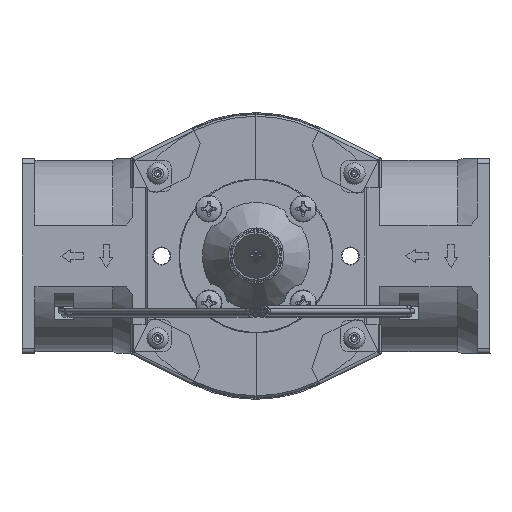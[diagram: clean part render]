
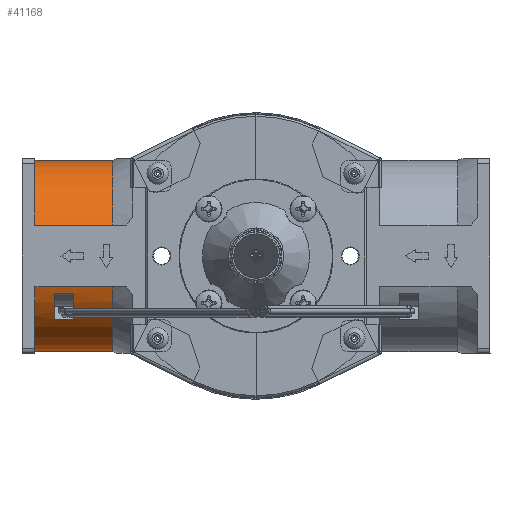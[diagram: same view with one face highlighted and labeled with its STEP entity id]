
A CAD part, front view. The second image highlights one B-rep face of the part: STEP entity #41168.
In plain terms, the highlighted cylindrical face has radius 29.5 mm (diameter 59 mm), a partial arc.
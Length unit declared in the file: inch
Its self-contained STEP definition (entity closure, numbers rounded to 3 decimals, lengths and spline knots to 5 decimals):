
#860 = DIRECTION ( 'NONE',  ( 0., 0., 1. ) ) ;
#1134 = VECTOR ( 'NONE', #3345, 39.37008 ) ;
#1284 = DIRECTION ( 'NONE',  ( 1., 0., 0. ) ) ;
#1369 = EDGE_CURVE ( 'NONE', #4544, #24800, #42989, .T. ) ;
#1387 = CARTESIAN_POINT ( 'NONE',  ( -1.73662, 2.39368, -0.375 ) ) ;
#1697 = EDGE_CURVE ( 'NONE', #25884, #6047, #22092, .T. ) ;
#2099 = EDGE_CURVE ( 'NONE', #23366, #4544, #13488, .T. ) ;
#2719 = ORIENTED_EDGE ( 'NONE', *, *, #25549, .T. ) ;
#3262 = CIRCLE ( 'NONE', #37993, 1.16142 ) ;
#3345 = DIRECTION ( 'NONE',  ( -1., 0., 0. ) ) ;
#4016 = CARTESIAN_POINT ( 'NONE',  ( -1.73662, 2.39368, 0.375 ) ) ;
#4535 = LINE ( 'NONE', #41325, #11813 ) ;
#4544 = VERTEX_POINT ( 'NONE', #4016 ) ;
#4614 = FACE_BOUND ( 'NONE', #17410, .T. ) ;
#6047 = VERTEX_POINT ( 'NONE', #25444 ) ;
#6603 = CARTESIAN_POINT ( 'NONE',  ( -3.26237, 2.39368, -0.375 ) ) ;
#7175 = CARTESIAN_POINT ( 'NONE',  ( -3.26237, 2.39368, 0.375 ) ) ;
#8119 = AXIS2_PLACEMENT_3D ( 'NONE', #17838, #31528, #31099 ) ;
#8758 = DIRECTION ( 'NONE',  ( 0., 0., 1. ) ) ;
#9654 = DIRECTION ( 'NONE',  ( 1., 0., 0. ) ) ;
#9690 = ORIENTED_EDGE ( 'NONE', *, *, #13111, .T. ) ;
#9885 = LINE ( 'NONE', #6603, #1134 ) ;
#10274 = EDGE_CURVE ( 'NONE', #6047, #41126, #3262, .T. ) ;
#10311 = CARTESIAN_POINT ( 'NONE',  ( -2.209, 2.42377, -0.45374 ) ) ;
#11670 = ORIENTED_EDGE ( 'NONE', *, *, #20875, .F. ) ;
#11813 = VECTOR ( 'NONE', #1284, 39.37008 ) ;
#13111 = EDGE_CURVE ( 'NONE', #38023, #25884, #36581, .T. ) ;
#13170 = CARTESIAN_POINT ( 'NONE',  ( -1.73662, 3.49289, 0. ) ) ;
#13200 = EDGE_CURVE ( 'NONE', #24800, #23488, #9885, .T. ) ;
#13488 = LINE ( 'NONE', #7175, #27775 ) ;
#13561 = CARTESIAN_POINT ( 'NONE',  ( -2.209, 3.49289, 0. ) ) ;
#13919 = DIRECTION ( 'NONE',  ( 1., 0., 0. ) ) ;
#16390 = DIRECTION ( 'NONE',  ( -1., 0., 0. ) ) ;
#17410 = EDGE_LOOP ( 'NONE', ( #41230, #33341, #2719, #9690 ) ) ;
#17838 = CARTESIAN_POINT ( 'NONE',  ( -2.68144, 3.49289, 0. ) ) ;
#17937 = DIRECTION ( 'NONE',  ( -1., 0., 0. ) ) ;
#18275 = DIRECTION ( 'NONE',  ( 0., 0., 1. ) ) ;
#19079 = ORIENTED_EDGE ( 'NONE', *, *, #13200, .T. ) ;
#19427 = ORIENTED_EDGE ( 'NONE', *, *, #2099, .T. ) ;
#20791 = CARTESIAN_POINT ( 'NONE',  ( -2.68144, 2.39368, 0.375 ) ) ;
#20875 = EDGE_CURVE ( 'NONE', #23366, #23488, #22086, .T. ) ;
#21325 = CARTESIAN_POINT ( 'NONE',  ( -2.44522, 3.49289, 0. ) ) ;
#22086 = CIRCLE ( 'NONE', #8119, 1.16142 ) ;
#22092 = LINE ( 'NONE', #25985, #38084 ) ;
#22835 = AXIS2_PLACEMENT_3D ( 'NONE', #13170, #26034, #18275 ) ;
#23366 = VERTEX_POINT ( 'NONE', #20791 ) ;
#23488 = VERTEX_POINT ( 'NONE', #35340 ) ;
#24800 = VERTEX_POINT ( 'NONE', #1387 ) ;
#24910 = CARTESIAN_POINT ( 'NONE',  ( -3.26237, 3.49289, 0. ) ) ;
#25444 = CARTESIAN_POINT ( 'NONE',  ( -2.44522, 2.62227, -0.7687 ) ) ;
#25542 = CARTESIAN_POINT ( 'NONE',  ( -2.44522, 2.42377, -0.45374 ) ) ;
#25549 = EDGE_CURVE ( 'NONE', #41126, #38023, #4535, .T. ) ;
#25884 = VERTEX_POINT ( 'NONE', #31092 ) ;
#25985 = CARTESIAN_POINT ( 'NONE',  ( -3.26237, 2.62227, -0.7687 ) ) ;
#26034 = DIRECTION ( 'NONE',  ( -1., 0., 0. ) ) ;
#26289 = ORIENTED_EDGE ( 'NONE', *, *, #1369, .T. ) ;
#27775 = VECTOR ( 'NONE', #13919, 39.37008 ) ;
#28171 = FACE_OUTER_BOUND ( 'NONE', #34335, .T. ) ;
#28949 = AXIS2_PLACEMENT_3D ( 'NONE', #13561, #9654, #39685 ) ;
#31092 = CARTESIAN_POINT ( 'NONE',  ( -2.209, 2.62227, -0.7687 ) ) ;
#31099 = DIRECTION ( 'NONE',  ( 0., 0., 1. ) ) ;
#31528 = DIRECTION ( 'NONE',  ( -1., 0., 0. ) ) ;
#33341 = ORIENTED_EDGE ( 'NONE', *, *, #10274, .T. ) ;
#34335 = EDGE_LOOP ( 'NONE', ( #11670, #19427, #26289, #19079 ) ) ;
#35340 = CARTESIAN_POINT ( 'NONE',  ( -2.68144, 2.39368, -0.375 ) ) ;
#36525 = AXIS2_PLACEMENT_3D ( 'NONE', #24910, #17937, #8758 ) ;
#36581 = CIRCLE ( 'NONE', #28949, 1.16142 ) ;
#37394 = DIRECTION ( 'NONE',  ( -1., 0., 0. ) ) ;
#37993 = AXIS2_PLACEMENT_3D ( 'NONE', #21325, #37394, #860 ) ;
#38023 = VERTEX_POINT ( 'NONE', #10311 ) ;
#38084 = VECTOR ( 'NONE', #16390, 39.37008 ) ;
#38560 = CYLINDRICAL_SURFACE ( 'NONE', #36525, 1.16142 ) ;
#39685 = DIRECTION ( 'NONE',  ( 0., 0., -1. ) ) ;
#41126 = VERTEX_POINT ( 'NONE', #25542 ) ;
#41168 = ADVANCED_FACE ( 'NONE', ( #4614, #28171 ), #38560, .T. ) ;
#41230 = ORIENTED_EDGE ( 'NONE', *, *, #1697, .T. ) ;
#41325 = CARTESIAN_POINT ( 'NONE',  ( -3.26237, 2.42377, -0.45374 ) ) ;
#42989 = CIRCLE ( 'NONE', #22835, 1.16142 ) ;
